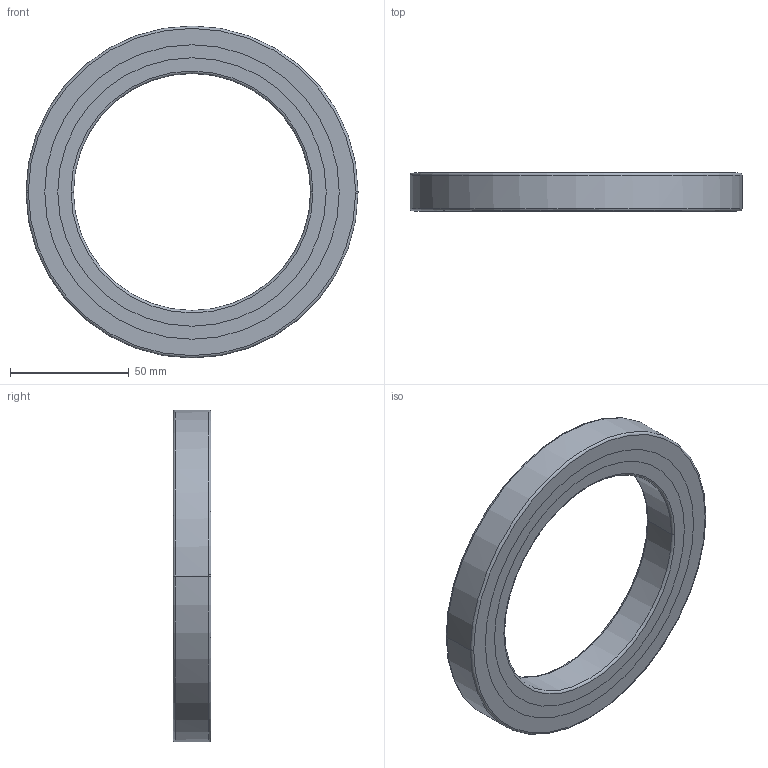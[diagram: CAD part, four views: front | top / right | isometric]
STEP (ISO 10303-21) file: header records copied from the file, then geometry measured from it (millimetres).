
FILE_DESCRIPTION(('no description'),'unknown implementation level');
FILE_NAME('CRBC10016_99.stp',' ',('HIWIN GmbH'),('CADClick - KiM GmbH - www.kimweb.de'),'unknown preprocess','ACIS','unknown authorization');
FILE_SCHEMA(('automotive_design'));
Length unit declared in the file: millimetre
Products named in the file (4): CRBC10016_1; CRBC10016_2; CRBC10016_3; CRBC10016
Bounding box: 140 x 16 x 140 mm (x, y, z)
Volume: 93650.7 mm3; surface area: 44768.6 mm2
Topology: 4 solids, 4 shells, 40 faces, 88 edges, 56 vertices
Faces by surface type: cylinder 16, torus 16, plane 8
Entity records: 2289 total; most frequent: DIRECTION 248, STYLED_ITEM 188, PRESENTATION_STYLE_ASSIGNMENT 188, CARTESIAN_POINT 188, COLOUR_RGB 188, ORIENTED_EDGE 176, AXIS2_PLACEMENT_3D 116, EDGE_CURVE 88
